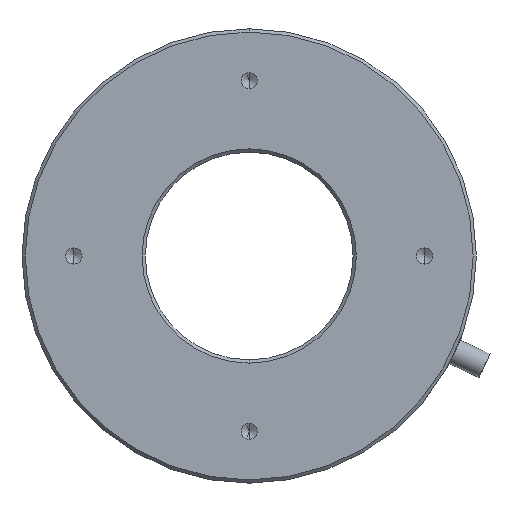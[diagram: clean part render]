
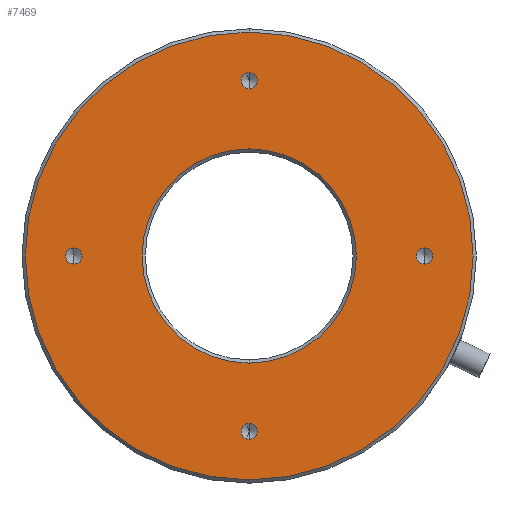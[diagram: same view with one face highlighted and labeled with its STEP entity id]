
A CAD part, front view. The second image highlights one B-rep face of the part: STEP entity #7469.
In plain terms, the highlighted planar face has unit normal (0, -1, 0).
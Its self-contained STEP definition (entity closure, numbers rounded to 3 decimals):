
#7 = VERTEX_POINT ( 'NONE', #2075 ) ;
#352 = DIRECTION ( 'NONE',  ( 0., 0., -1. ) ) ;
#522 = VERTEX_POINT ( 'NONE', #8038 ) ;
#809 = FACE_BOUND ( 'NONE', #6807, .T. ) ;
#926 = CARTESIAN_POINT ( 'NONE',  ( 0., 0., -16.5 ) ) ;
#963 = EDGE_CURVE ( 'NONE', #522, #12572, #5852, .T. ) ;
#1045 = DIRECTION ( 'NONE',  ( 0., 1., 0. ) ) ;
#1118 = FACE_OUTER_BOUND ( 'NONE', #7494, .T. ) ;
#1316 = DIRECTION ( 'NONE',  ( 0., -1., 0. ) ) ;
#1388 = ORIENTED_EDGE ( 'NONE', *, *, #4706, .F. ) ;
#1484 = CIRCLE ( 'NONE', #4773, 1.25 ) ;
#1607 = AXIS2_PLACEMENT_3D ( 'NONE', #11347, #5508, #12316 ) ;
#1765 = EDGE_CURVE ( 'NONE', #5872, #4457, #3485, .T. ) ;
#2075 = CARTESIAN_POINT ( 'NONE',  ( 0., 0., 25.75 ) ) ;
#2358 = PLANE ( 'NONE',  #10705 ) ;
#2399 = DIRECTION ( 'NONE',  ( 0., -1., 0. ) ) ;
#2450 = EDGE_LOOP ( 'NONE', ( #4628, #10049 ) ) ;
#2521 = EDGE_CURVE ( 'NONE', #6881, #11262, #11103, .T. ) ;
#2555 = CARTESIAN_POINT ( 'NONE',  ( 0., 0., 0. ) ) ;
#2740 = ORIENTED_EDGE ( 'NONE', *, *, #6435, .F. ) ;
#2872 = CARTESIAN_POINT ( 'NONE',  ( 0., 0., 16.5 ) ) ;
#3161 = EDGE_CURVE ( 'NONE', #7, #10479, #11846, .T. ) ;
#3178 = AXIS2_PLACEMENT_3D ( 'NONE', #3467, #10295, #4446 ) ;
#3382 = FACE_BOUND ( 'NONE', #6709, .T. ) ;
#3403 = DIRECTION ( 'NONE',  ( 0., -1., 0. ) ) ;
#3467 = CARTESIAN_POINT ( 'NONE',  ( 0., 0., -27. ) ) ;
#3485 = CIRCLE ( 'NONE', #1607, 1.25 ) ;
#3518 = DIRECTION ( 'NONE',  ( 0., 0., 1. ) ) ;
#3881 = AXIS2_PLACEMENT_3D ( 'NONE', #8237, #2399, #9222 ) ;
#4021 = EDGE_CURVE ( 'NONE', #12572, #522, #5999, .T. ) ;
#4446 = DIRECTION ( 'NONE',  ( 0., 0., -1. ) ) ;
#4457 = VERTEX_POINT ( 'NONE', #10550 ) ;
#4502 = AXIS2_PLACEMENT_3D ( 'NONE', #6869, #1045, #7872 ) ;
#4628 = ORIENTED_EDGE ( 'NONE', *, *, #9293, .T. ) ;
#4631 = CIRCLE ( 'NONE', #3178, 1.25 ) ;
#4696 = CARTESIAN_POINT ( 'NONE',  ( -27., 0., -1.25 ) ) ;
#4706 = EDGE_CURVE ( 'NONE', #12165, #9837, #4771, .T. ) ;
#4771 = CIRCLE ( 'NONE', #12610, 1.25 ) ;
#4773 = AXIS2_PLACEMENT_3D ( 'NONE', #12001, #6164, #352 ) ;
#4905 = CARTESIAN_POINT ( 'NONE',  ( 0., 0., 27. ) ) ;
#5117 = CARTESIAN_POINT ( 'NONE',  ( 27., 0., 0. ) ) ;
#5118 = CARTESIAN_POINT ( 'NONE',  ( 0., 0., -34.5 ) ) ;
#5256 = ORIENTED_EDGE ( 'NONE', *, *, #2521, .F. ) ;
#5390 = ORIENTED_EDGE ( 'NONE', *, *, #4021, .T. ) ;
#5508 = DIRECTION ( 'NONE',  ( 0., -1., 0. ) ) ;
#5564 = AXIS2_PLACEMENT_3D ( 'NONE', #9266, #3403, #10228 ) ;
#5645 = DIRECTION ( 'NONE',  ( 0., -1., 0. ) ) ;
#5687 = VERTEX_POINT ( 'NONE', #926 ) ;
#5733 = CARTESIAN_POINT ( 'NONE',  ( 0., 0., 0. ) ) ;
#5852 = CIRCLE ( 'NONE', #3881, 34.5 ) ;
#5867 = DIRECTION ( 'NONE',  ( 0., 0., -1. ) ) ;
#5872 = VERTEX_POINT ( 'NONE', #6279 ) ;
#5950 = AXIS2_PLACEMENT_3D ( 'NONE', #4905, #11712, #5867 ) ;
#5976 = FACE_BOUND ( 'NONE', #2450, .T. ) ;
#5999 = CIRCLE ( 'NONE', #11401, 34.5 ) ;
#6079 = DIRECTION ( 'NONE',  ( 0., 0., -1. ) ) ;
#6097 = ORIENTED_EDGE ( 'NONE', *, *, #3161, .F. ) ;
#6164 = DIRECTION ( 'NONE',  ( 0., -1., 0. ) ) ;
#6265 = DIRECTION ( 'NONE',  ( 0., 0., 1. ) ) ;
#6279 = CARTESIAN_POINT ( 'NONE',  ( 0., 0., -28.25 ) ) ;
#6330 = AXIS2_PLACEMENT_3D ( 'NONE', #5733, #12532, #6711 ) ;
#6435 = EDGE_CURVE ( 'NONE', #4457, #5872, #4631, .T. ) ;
#6594 = CIRCLE ( 'NONE', #4502, 16.5 ) ;
#6595 = FACE_BOUND ( 'NONE', #12497, .T. ) ;
#6709 = EDGE_LOOP ( 'NONE', ( #10306, #1388 ) ) ;
#6711 = DIRECTION ( 'NONE',  ( 0., 0., 1. ) ) ;
#6807 = EDGE_LOOP ( 'NONE', ( #6097, #11713 ) ) ;
#6869 = CARTESIAN_POINT ( 'NONE',  ( 0., 0., 0. ) ) ;
#6877 = CARTESIAN_POINT ( 'NONE',  ( 27., 0., -1.25 ) ) ;
#6881 = VERTEX_POINT ( 'NONE', #10238 ) ;
#7133 = CARTESIAN_POINT ( 'NONE',  ( -27., 0., 0. ) ) ;
#7469 = ADVANCED_FACE ( 'NONE', ( #5976, #1118, #6595, #3382, #809, #10871 ), #2358, .F. ) ;
#7494 = EDGE_LOOP ( 'NONE', ( #11182, #5390 ) ) ;
#7872 = DIRECTION ( 'NONE',  ( 0., 0., 1. ) ) ;
#7899 = CARTESIAN_POINT ( 'NONE',  ( 0., 0., 28.25 ) ) ;
#8038 = CARTESIAN_POINT ( 'NONE',  ( 0., 0., 34.5 ) ) ;
#8131 = DIRECTION ( 'NONE',  ( 0., 0., -1. ) ) ;
#8199 = CARTESIAN_POINT ( 'NONE',  ( 0., 0., 0. ) ) ;
#8222 = EDGE_CURVE ( 'NONE', #11642, #5687, #6594, .T. ) ;
#8237 = CARTESIAN_POINT ( 'NONE',  ( 0., 0., 0. ) ) ;
#8466 = EDGE_CURVE ( 'NONE', #9837, #12165, #9656, .T. ) ;
#8602 = EDGE_LOOP ( 'NONE', ( #9909, #5256 ) ) ;
#9184 = CIRCLE ( 'NONE', #12011, 1.25 ) ;
#9217 = EDGE_CURVE ( 'NONE', #11262, #6881, #9184, .T. ) ;
#9222 = DIRECTION ( 'NONE',  ( 0., 0., 1. ) ) ;
#9266 = CARTESIAN_POINT ( 'NONE',  ( -27., 0., 0. ) ) ;
#9293 = EDGE_CURVE ( 'NONE', #5687, #11642, #11142, .T. ) ;
#9372 = DIRECTION ( 'NONE',  ( 0., -1., 0. ) ) ;
#9656 = CIRCLE ( 'NONE', #5564, 1.25 ) ;
#9798 = ORIENTED_EDGE ( 'NONE', *, *, #1765, .F. ) ;
#9837 = VERTEX_POINT ( 'NONE', #4696 ) ;
#9909 = ORIENTED_EDGE ( 'NONE', *, *, #9217, .F. ) ;
#10049 = ORIENTED_EDGE ( 'NONE', *, *, #8222, .T. ) ;
#10228 = DIRECTION ( 'NONE',  ( 0., 0., -1. ) ) ;
#10238 = CARTESIAN_POINT ( 'NONE',  ( 27., 0., 1.25 ) ) ;
#10295 = DIRECTION ( 'NONE',  ( 0., -1., 0. ) ) ;
#10306 = ORIENTED_EDGE ( 'NONE', *, *, #8466, .F. ) ;
#10479 = VERTEX_POINT ( 'NONE', #7899 ) ;
#10550 = CARTESIAN_POINT ( 'NONE',  ( 0., 0., -25.75 ) ) ;
#10705 = AXIS2_PLACEMENT_3D ( 'NONE', #8199, #12093, #6265 ) ;
#10871 = FACE_BOUND ( 'NONE', #8602, .T. ) ;
#11103 = CIRCLE ( 'NONE', #11504, 1.25 ) ;
#11142 = CIRCLE ( 'NONE', #6330, 16.5 ) ;
#11182 = ORIENTED_EDGE ( 'NONE', *, *, #963, .T. ) ;
#11262 = VERTEX_POINT ( 'NONE', #6877 ) ;
#11347 = CARTESIAN_POINT ( 'NONE',  ( 0., 0., -27. ) ) ;
#11401 = AXIS2_PLACEMENT_3D ( 'NONE', #2555, #9372, #3518 ) ;
#11486 = CARTESIAN_POINT ( 'NONE',  ( 27., 0., 0. ) ) ;
#11504 = AXIS2_PLACEMENT_3D ( 'NONE', #5117, #11918, #6079 ) ;
#11642 = VERTEX_POINT ( 'NONE', #2872 ) ;
#11712 = DIRECTION ( 'NONE',  ( 0., -1., 0. ) ) ;
#11713 = ORIENTED_EDGE ( 'NONE', *, *, #12604, .F. ) ;
#11846 = CIRCLE ( 'NONE', #5950, 1.25 ) ;
#11918 = DIRECTION ( 'NONE',  ( 0., -1., 0. ) ) ;
#12001 = CARTESIAN_POINT ( 'NONE',  ( 0., 0., 27. ) ) ;
#12009 = CARTESIAN_POINT ( 'NONE',  ( -27., 0., 1.25 ) ) ;
#12011 = AXIS2_PLACEMENT_3D ( 'NONE', #11486, #5645, #12448 ) ;
#12093 = DIRECTION ( 'NONE',  ( 0., 1., 0. ) ) ;
#12165 = VERTEX_POINT ( 'NONE', #12009 ) ;
#12316 = DIRECTION ( 'NONE',  ( 0., 0., -1. ) ) ;
#12448 = DIRECTION ( 'NONE',  ( 0., 0., -1. ) ) ;
#12497 = EDGE_LOOP ( 'NONE', ( #9798, #2740 ) ) ;
#12532 = DIRECTION ( 'NONE',  ( 0., 1., 0. ) ) ;
#12572 = VERTEX_POINT ( 'NONE', #5118 ) ;
#12604 = EDGE_CURVE ( 'NONE', #10479, #7, #1484, .T. ) ;
#12610 = AXIS2_PLACEMENT_3D ( 'NONE', #7133, #1316, #8131 ) ;
